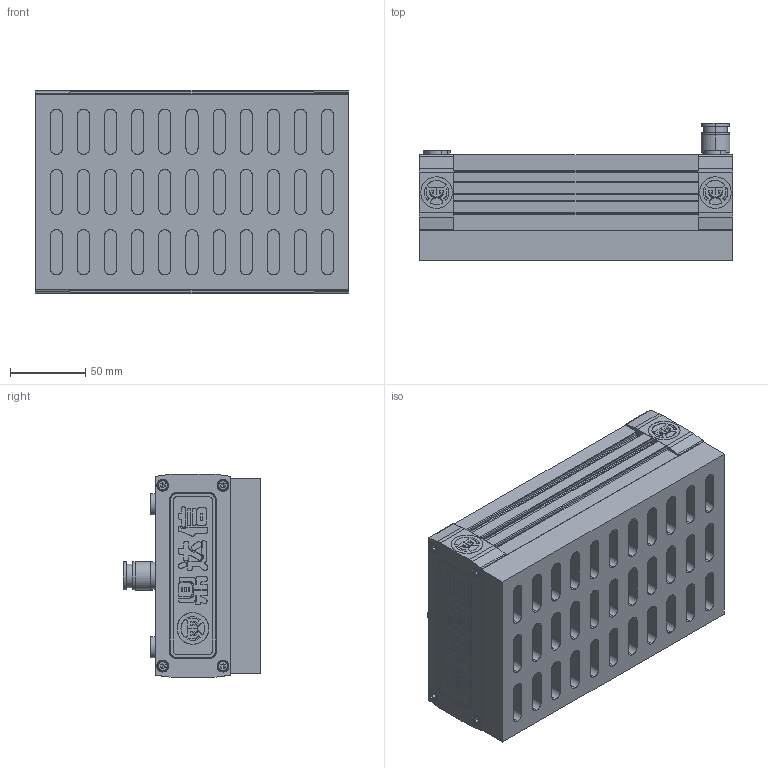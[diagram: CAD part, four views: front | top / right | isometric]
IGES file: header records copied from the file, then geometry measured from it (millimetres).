
Start section: SolidWorks IGES file using analytic representation for surfaces
Bounding box: 208 x 91.2 x 135 mm (x, y, z)
Surface area: 253252.9 mm2 (no closed solid volume)
Topology: 0 solids, 0 shells, 1547 faces, 20118 edges, 20102 vertices
Faces by surface type: bspline 1034, revolution 513
